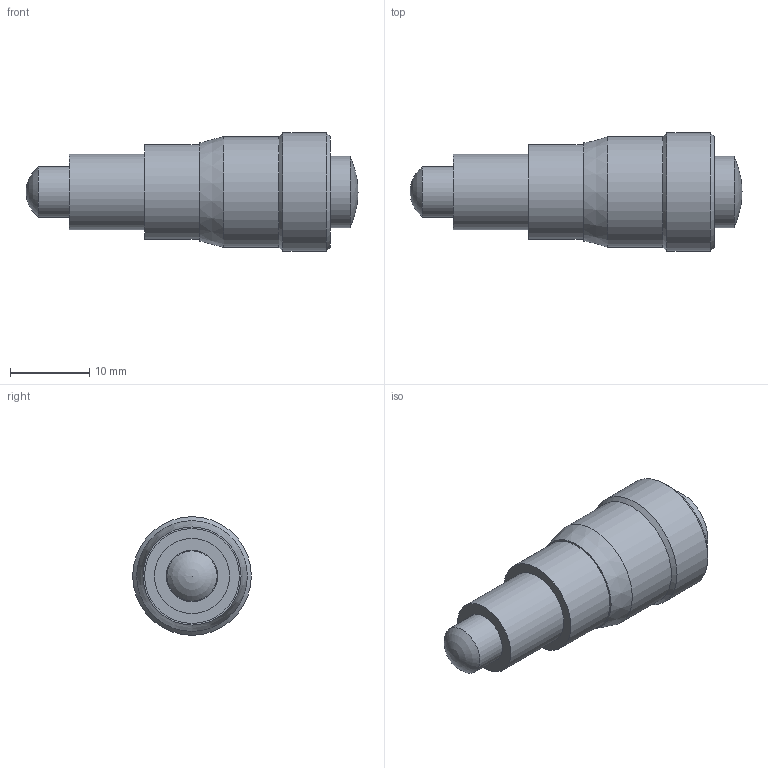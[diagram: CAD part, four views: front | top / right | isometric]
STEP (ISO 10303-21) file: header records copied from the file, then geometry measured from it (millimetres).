
FILE_DESCRIPTION( ( 'STEP AP203' ), '1' );
FILE_NAME( 'C:/3D-Trans/3D_B80-3+090212.step', '2009-02-12T01:41:47', ( ' ' ), ( ' ' ), 'XStep 1.0', ' ', ' ' );
FILE_SCHEMA( ( 'CONFIG_CONTROL_DESIGN' ) );
Length unit declared in the file: millimetre
Products named in the file (2): 1; 2
Bounding box: 42 x 15 x 15 mm (x, y, z)
Volume: 3948.2 mm3; surface area: 3389.1 mm2
Topology: 2 solids, 2 shells, 20 faces, 41 edges, 27 vertices
Faces by surface type: cylinder 8, plane 6, cone 4, sphere 1, bspline 1
Full cylindrical faces by diameter (mm): 6.35 x1, 6.5 x1, 9 x1, 9.5 x1, 12 x1, 13.6 x1, 14 x1, 15 x1
Entity records: 517 total; most frequent: CARTESIAN_POINT 89, DIRECTION 80, AXIS2_PLACEMENT_3D 40, EDGE_LOOP 38, ORIENTED_EDGE 38, FACE_OUTER_BOUND 28, VERTEX_POINT 21, ADVANCED_FACE 20
